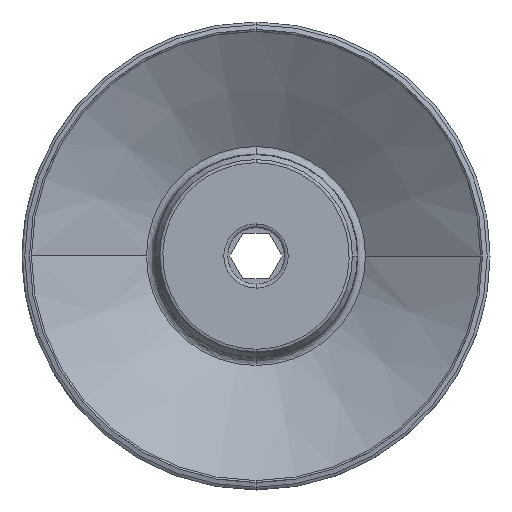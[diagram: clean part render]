
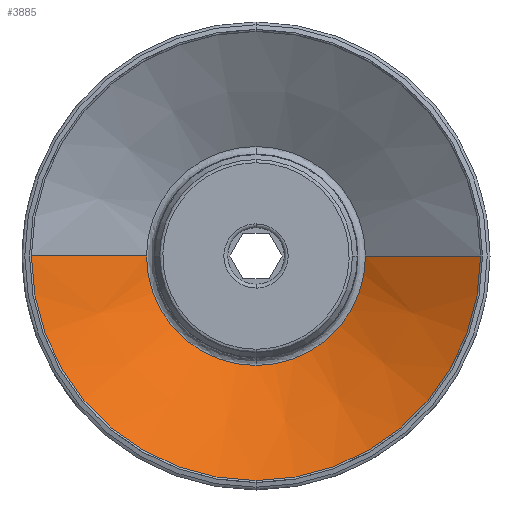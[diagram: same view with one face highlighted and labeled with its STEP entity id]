
A CAD part, front view. The second image highlights one B-rep face of the part: STEP entity #3885.
In plain terms, the highlighted conical face has half-angle 58.6 degrees and reference radius 29.75 mm.
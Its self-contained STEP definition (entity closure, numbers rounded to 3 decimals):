
#776 = EDGE_CURVE ( 'NONE', #12434, #5172, #15257, .T. ) ;
#997 = CARTESIAN_POINT ( 'NONE',  ( 0., -30.511, 0. ) ) ;
#1016 = DIRECTION ( 'NONE',  ( 0., 0., -1. ) ) ;
#1509 = ORIENTED_EDGE ( 'NONE', *, *, #7151, .F. ) ;
#2140 = VERTEX_POINT ( 'NONE', #4173 ) ;
#2603 = ORIENTED_EDGE ( 'NONE', *, *, #15046, .F. ) ;
#2826 = EDGE_CURVE ( 'NONE', #13311, #5172, #11390, .T. ) ;
#2833 = DIRECTION ( 'NONE',  ( -0.854, -0.521, 0. ) ) ;
#3168 = CARTESIAN_POINT ( 'NONE',  ( 0., -30.511, -29.75 ) ) ;
#3390 = DIRECTION ( 'NONE',  ( 0., -1., 0. ) ) ;
#3855 = CARTESIAN_POINT ( 'NONE',  ( 0., -30.511, 0. ) ) ;
#3885 = ADVANCED_FACE ( 'NONE', ( #5616 ), #13817, .F. ) ;
#3952 = EDGE_LOOP ( 'NONE', ( #2603, #11831, #13925, #12059, #1509, #15322 ) ) ;
#4173 = CARTESIAN_POINT ( 'NONE',  ( 0., -21.203, -14.5 ) ) ;
#5082 = CARTESIAN_POINT ( 'NONE',  ( -14.5, -21.203, 0. ) ) ;
#5172 = VERTEX_POINT ( 'NONE', #15397 ) ;
#5175 = CARTESIAN_POINT ( 'NONE',  ( 29.75, -30.511, 0. ) ) ;
#5197 = DIRECTION ( 'NONE',  ( 0., 0., -1. ) ) ;
#5305 = CARTESIAN_POINT ( 'NONE',  ( -29.75, -30.511, 0. ) ) ;
#5616 = FACE_OUTER_BOUND ( 'NONE', #3952, .T. ) ;
#6039 = DIRECTION ( 'NONE',  ( 0., -1., 0. ) ) ;
#6267 = DIRECTION ( 'NONE',  ( 0., 1., 0. ) ) ;
#6862 = CIRCLE ( 'NONE', #15817, 14.5 ) ;
#7151 = EDGE_CURVE ( 'NONE', #12138, #10827, #8905, .T. ) ;
#7585 = AXIS2_PLACEMENT_3D ( 'NONE', #3855, #6267, #14849 ) ;
#7786 = CARTESIAN_POINT ( 'NONE',  ( 0., -30.511, 0. ) ) ;
#7919 = EDGE_CURVE ( 'NONE', #10827, #12434, #15678, .T. ) ;
#7938 = AXIS2_PLACEMENT_3D ( 'NONE', #997, #10429, #15638 ) ;
#8424 = CARTESIAN_POINT ( 'NONE',  ( 14.5, -21.203, 0. ) ) ;
#8535 = DIRECTION ( 'NONE',  ( 0., 0., -1. ) ) ;
#8905 = LINE ( 'NONE', #12806, #9778 ) ;
#8909 = DIRECTION ( 'NONE',  ( 0., 1., 0. ) ) ;
#9286 = EDGE_CURVE ( 'NONE', #2140, #12138, #6862, .T. ) ;
#9778 = VECTOR ( 'NONE', #12555, 1000. ) ;
#9823 = VECTOR ( 'NONE', #2833, 1000. ) ;
#10429 = DIRECTION ( 'NONE',  ( 0., -1., 0. ) ) ;
#10827 = VERTEX_POINT ( 'NONE', #5175 ) ;
#11390 = LINE ( 'NONE', #5305, #9823 ) ;
#11831 = ORIENTED_EDGE ( 'NONE', *, *, #2826, .T. ) ;
#11923 = AXIS2_PLACEMENT_3D ( 'NONE', #15672, #6039, #8535 ) ;
#12059 = ORIENTED_EDGE ( 'NONE', *, *, #7919, .F. ) ;
#12138 = VERTEX_POINT ( 'NONE', #8424 ) ;
#12434 = VERTEX_POINT ( 'NONE', #3168 ) ;
#12555 = DIRECTION ( 'NONE',  ( 0.854, -0.521, 0. ) ) ;
#12806 = CARTESIAN_POINT ( 'NONE',  ( 29.75, -30.511, 0. ) ) ;
#12848 = AXIS2_PLACEMENT_3D ( 'NONE', #7786, #8909, #5197 ) ;
#13311 = VERTEX_POINT ( 'NONE', #5082 ) ;
#13817 = CONICAL_SURFACE ( 'NONE', #7938, 29.75, 1.023 ) ;
#13925 = ORIENTED_EDGE ( 'NONE', *, *, #776, .F. ) ;
#14465 = CARTESIAN_POINT ( 'NONE',  ( 0., -21.203, 0. ) ) ;
#14510 = CIRCLE ( 'NONE', #11923, 14.5 ) ;
#14849 = DIRECTION ( 'NONE',  ( 0., 0., -1. ) ) ;
#15046 = EDGE_CURVE ( 'NONE', #13311, #2140, #14510, .T. ) ;
#15257 = CIRCLE ( 'NONE', #7585, 29.75 ) ;
#15322 = ORIENTED_EDGE ( 'NONE', *, *, #9286, .F. ) ;
#15397 = CARTESIAN_POINT ( 'NONE',  ( -29.75, -30.511, 0. ) ) ;
#15638 = DIRECTION ( 'NONE',  ( 1., 0., 0. ) ) ;
#15672 = CARTESIAN_POINT ( 'NONE',  ( 0., -21.203, 0. ) ) ;
#15678 = CIRCLE ( 'NONE', #12848, 29.75 ) ;
#15817 = AXIS2_PLACEMENT_3D ( 'NONE', #14465, #3390, #1016 ) ;
